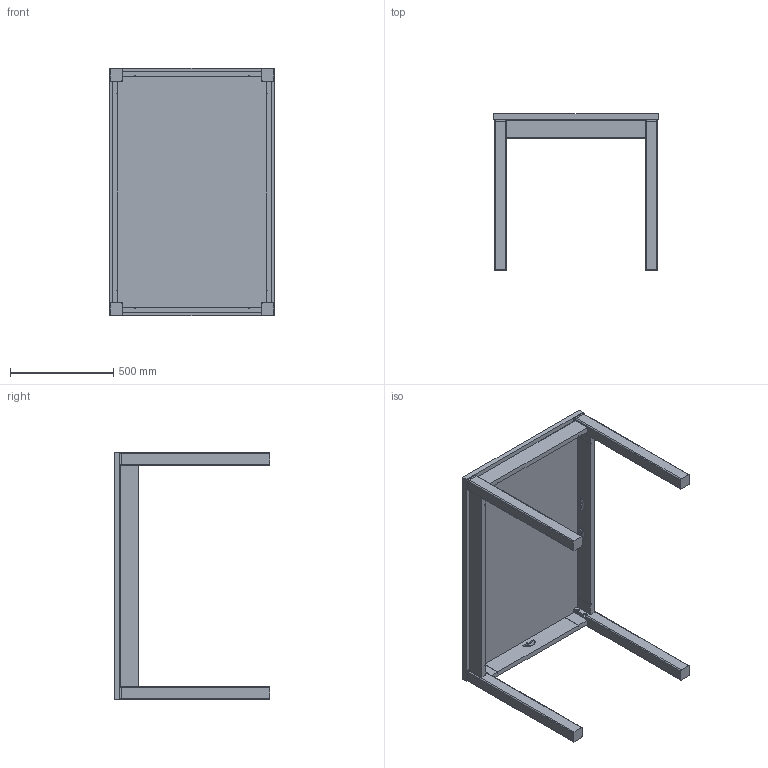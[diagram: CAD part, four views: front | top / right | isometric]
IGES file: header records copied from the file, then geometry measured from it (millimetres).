
Start section: SolidWorks IGES file using analytic representation for surfaces
Global section: file name: C:\Users\emanuel.JMS\Desktop\Alvito_1200_800.IGS; native system: SolidWorks 2014; preprocessor: SolidWorks 2014; author: Emanuel; date: 140617.091149; units: millimetre
Bounding box: 800 x 755 x 1200 mm (x, y, z)
Surface area: 3592151.8 mm2 (no closed solid volume)
Topology: 0 solids, 0 shells, 288 faces, 4144 edges, 4144 vertices
Faces by surface type: bspline 180, revolution 108
